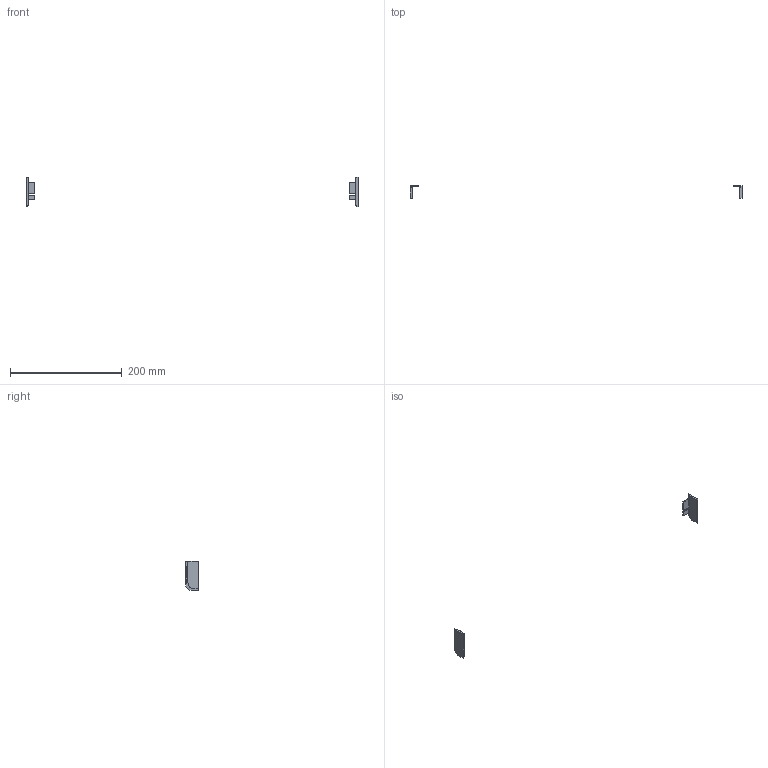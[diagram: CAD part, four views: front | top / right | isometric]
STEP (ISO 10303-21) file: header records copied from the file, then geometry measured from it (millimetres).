
FILE_DESCRIPTION( ( 'STEP AP214' ), '1' );
FILE_NAME( 'C:/Users/swati/Desktop/buena/9210126/9210126.stp', ' ', ( ' ' ), ( ' ' ), 'PSStep 15.0.47', 'PARTsolutions', ' ' );
FILE_SCHEMA( ( 'AUTOMOTIVE_DESIGN { 1 0 10303 214 1 1 1 1 }' ) );
Length unit declared in the file: millimetre
Products named in the file (3): 95 ; _
Assembly tree (2 placements, depth 2):
  95 
    _
    _
Bounding box: 594 x 23 x 52 mm (x, y, z)
Volume: 9170.5 mm3; surface area: 7414.1 mm2
Topology: 2 solids, 2 shells, 48 faces, 132 edges, 88 vertices
Faces by surface type: plane 42, cylinder 6
Entity records: 1946 total; most frequent: CARTESIAN_POINT 271, ORIENTED_EDGE 264, DIRECTION 246, EDGE_CURVE 132, LINE 120, VECTOR 120, VERTEX_POINT 88, AXIS2_PLACEMENT_3D 63
